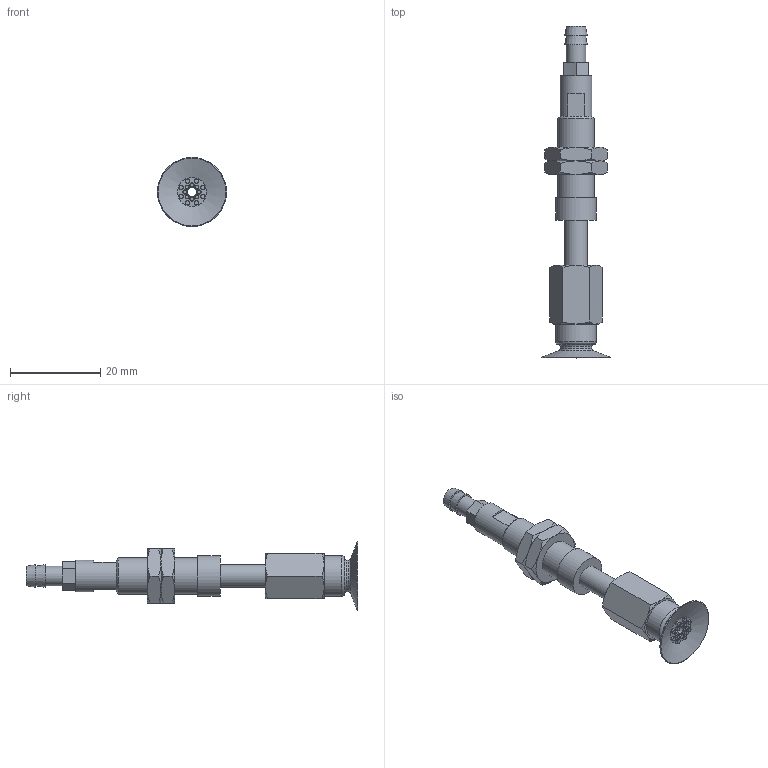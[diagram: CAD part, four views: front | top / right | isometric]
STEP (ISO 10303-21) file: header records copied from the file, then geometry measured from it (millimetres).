
FILE_DESCRIPTION(('STEP AP203'),'1');
FILE_NAME('-T.stp','2025-08-26T08:47:55',(' '),(' '),'Spatial InterOp 3D',' ',' ');
FILE_SCHEMA(('CONFIG_CONTROL_DESIGN'));
Length unit declared in the file: millimetre
Products named in the file (7): BNABPATS-15A-10-※-T; ADAPTER; NAPATS-10A-10--M; NAPATS-10A-10--F; Nut-10A-S; BPAG-15A-※_3D; T
Assembly tree (7 placements, depth 2):
  BNABPATS-15A-10-※-T
    ADAPTER
    NAPATS-10A-10--M
    NAPATS-10A-10--F
    Nut-10A-S  x2
    BPAG-15A-※_3D
    T
Bounding box: 15.3 x 73.5 x 15.3 mm (x, y, z)
Volume: 3699.4 mm3; surface area: 4702.3 mm2
Topology: 7 solids, 7 shells, 162 faces, 315 edges, 194 vertices
Faces by surface type: plane 69, cone 48, cylinder 36, torus 9
Full cylindrical faces by diameter (mm): 0.9 x16, 2 x3, 3 x1, 4 x2, 4.134 x1, 4.3 x1, 5 x3, 6 x2, 7 x2, 7.188 x2, 8 x1, 9 x2
Entity records: 3746 total; most frequent: CARTESIAN_POINT 799, DIRECTION 568, ORIENTED_EDGE 410, AXIS2_PLACEMENT_3D 264, EDGE_LOOP 232, EDGE_CURVE 205, FACE_OUTER_BOUND 183, VERTEX_POINT 159
